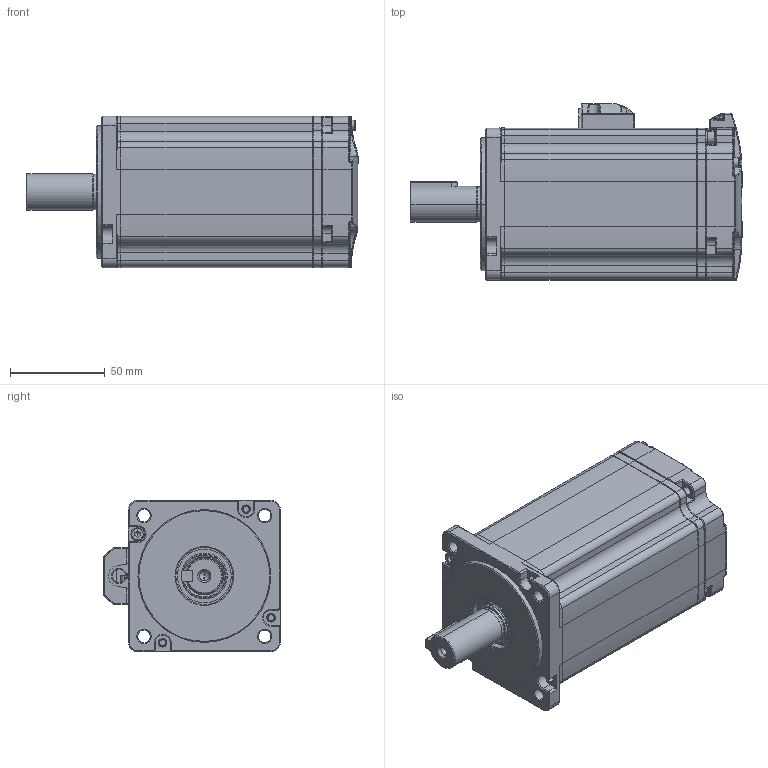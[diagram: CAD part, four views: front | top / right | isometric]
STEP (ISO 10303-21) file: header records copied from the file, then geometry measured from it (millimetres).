
FILE_DESCRIPTION (( 'STEP AP203' ), '1' );
FILE_NAME ('EM3J-08AL（带抱闸）.STEP', '2023-11-17T07:18:45', ( '' ), ( '' ), 'SwSTEP 2.0', 'SolidWorks 2018', '' );
FILE_SCHEMA (( 'CONFIG_CONTROL_DESIGN' ));
Products named in the file (1): EM3J-08AL（带抱闸）
Bounding box: 175 x 93 x 80 mm (x, y, z)
Volume: 400659.7 mm3; surface area: 188381.4 mm2
Topology: 34 solids, 34 shells, 2099 faces, 5127 edges, 3101 vertices
Faces by surface type: cylinder 705, plane 645, cone 286, torus 218, bspline 156, sphere 89
Entity records: 67608 total; most frequent: CARTESIAN_POINT 18231, DIRECTION 10723, ORIENTED_EDGE 10138, EDGE_CURVE 5069, AXIS2_PLACEMENT_3D 4213, VERTEX_POINT 3100, EDGE_LOOP 2305, VECTOR 2297
